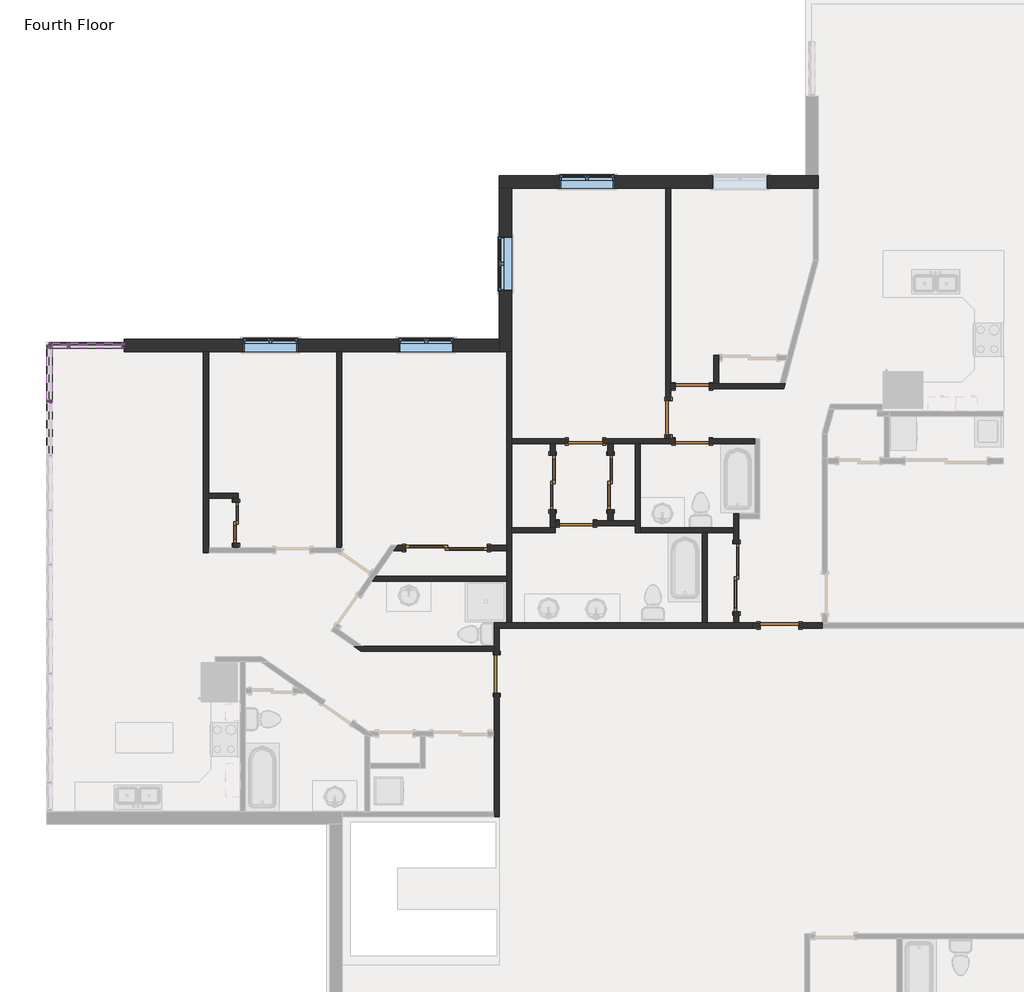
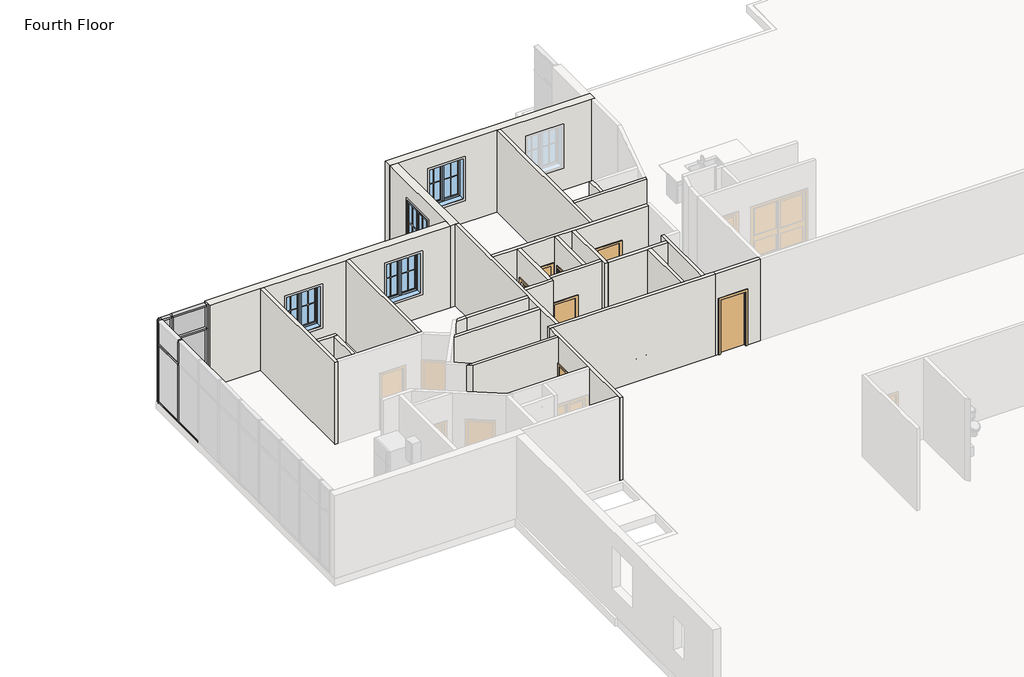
# One storey, part 8 of 17: 27 walls, 19 members, 12 doors, 4 plates, 4 windows.
"""IFC4 building model written with IfcOpenShell, lengths in millimetres."""

from ifc_helpers import new_model, si_unit, frame, origin, place, context, project, spatial, polyline, outline, extrude, faceted_brep, transform, mapped, element, save
from components import door_d8f5dbb5, door_f2b275c1, door_825b8444, door_c29894e6, door_88c23cd7, door_900f836f, door_2e7ec8be, door_caaf2a11, rectangular_mullion_rectangular_mullion_1_fa3625a1, rectangular_mullion_rectangular_mullion_1_7cbf0b94, rectangular_mullion_rectangular_mullion_1_6186cc23, rectangular_mullion_rectangular_mullion_1_049a2e78, rectangular_mullion_rectangular_mullion_1_a50b3cda, rectangular_mullion_rectangular_mullion_1_5cd4c5ac, rectangular_mullion_rectangular_mullion_1_64aff199, rectangular_mullion_rectangular_mullion_1_b6c962ab, system_panel_glazed_0ed27d1d, system_panel_glazed_134bacdb, system_panel_glazed_a3383988, system_panel_glazed_d9a092fd, window_33528cc2

model = new_model("IFC4")

# Units and contexts
model_context = context("Model", 3, world=origin())
ifc_project = project(units=[si_unit("LENGTHUNIT", "METRE", prefix="MILLI")], contexts=[model_context])

# Site, building, storey
site = spatial("IfcSite", under=ifc_project)
building = spatial("IfcBuilding", under=site)
storey = spatial("IfcBuildingStorey", under=building, Name="Fourth Floor", Elevation=9144.0)

# Doors
placement = place(None, origin())
door_shape = door_d8f5dbb5(model_context)
element("IfcDoor", 1, ObjectType="Single-Flush : 30\" x 80\"", at=placement, inside=storey, context=model_context, shape_type="MappedRepresentation", body=[
    mapped(door_shape, transform((12409.9063982, 4588.2091714, 9144.0), x_axis=(-1.0, 0.0, 0.0), y_axis=(0.0, -1.0, 0.0), z_axis=(0.0, 0.0, 1.0))),
])
door_2_shape = door_f2b275c1(model_context)
element("IfcDoor", 2, ObjectType="Single-Flush : 30\" x 80\"", at=placement, inside=storey, context=model_context, shape_type="MappedRepresentation", body=[
    mapped(door_2_shape, transform((15004.9379006, 7654.5108545, 9144.0), x_axis=(-1.0, 0.0, 0.0), y_axis=(0.0, -1.0, 0.0), z_axis=(0.0, 0.0, 1.0))),
])
element("IfcDoor", 3, ObjectType="Single-Flush : 30\" x 80\"", at=placement, inside=storey, context=model_context, shape_type="MappedRepresentation", body=[
    mapped(door_2_shape, transform((14468.0674417, 6956.8936958, 9144.0), x_axis=(0.0, -1.0, 0.0), y_axis=(1.0, 0.0, 0.0), z_axis=(0.0, 0.0, 1.0))),
])
element("IfcDoor", 4, ObjectType="Single-Flush : 30\" x 80\"", at=placement, inside=storey, context=model_context, shape_type="MappedRepresentation", body=[
    mapped(door_2_shape, transform((12612.1535557, 6423.4936958, 9144.0), x_axis=(1.0, 0.0, 0.0), y_axis=(0.0, 1.0, 0.0), z_axis=(0.0, 0.0, 1.0))),
])
element("IfcDoor", 5, ObjectType="Single-Flush : 30\" x 80\"", at=placement, inside=storey, context=model_context, shape_type="MappedRepresentation", body=[
    mapped(door_2_shape, transform((15001.4674417, 6423.4936958, 9144.0), x_axis=(1.0, 0.0, 0.0), y_axis=(0.0, 1.0, 0.0), z_axis=(0.0, 0.0, 1.0))),
])
door_3_shape = door_825b8444(model_context)
element("IfcDoor", 6, ObjectType="Single-Flush : 34\" x 80\"", at=placement, inside=storey, context=model_context, shape_type="MappedRepresentation", body=[
    mapped(door_3_shape, transform((16954.6993195, 2302.2091714, 9144.0), x_axis=(-1.0, 0.0, 0.0), y_axis=(0.0, -1.0, 0.0), z_axis=(0.0, 0.0, 1.0))),
])
door_4_shape = door_c29894e6(model_context)
element("IfcDoor", 7, ObjectType="Single-Flush : 34\" x 80\"", at=placement, inside=storey, context=model_context, shape_type="MappedRepresentation", body=[
    mapped(door_4_shape, transform((10626.433999, 1220.4185137, 9144.0), x_axis=(0.0, 1.0, 0.0), y_axis=(-1.0, 0.0, 0.0), z_axis=(0.0, 0.0, 1.0))),
])
door_5_shape = door_88c23cd7(model_context)
element("IfcDoor", 8, ObjectType="Sliding-Closet : 36\" x 80\"", at=placement, inside=storey, context=model_context, shape_type="MappedRepresentation", body=[
    mapped(door_5_shape, transform((4658.4503923, 4599.0838873, 9144.0), x_axis=(0.0, -1.0, 0.0), y_axis=(1.0, 0.0, 0.0), z_axis=(0.0, 0.0, 1.0))),
])
door_6_shape = door_900f836f(model_context)
element("IfcDoor", 9, ObjectType="Sliding-Closet : 48\" x 80\"", at=placement, inside=storey, context=model_context, shape_type="MappedRepresentation", body=[
    mapped(door_6_shape, transform((11749.5063982, 5505.8514336, 9144.0), x_axis=(0.0, -1.0, 0.0), y_axis=(1.0, 0.0, 0.0), z_axis=(0.0, 0.0, 1.0))),
])
element("IfcDoor", 10, ObjectType="Sliding-Closet : 48\" x 80\"", at=placement, inside=storey, context=model_context, shape_type="MappedRepresentation", body=[
    mapped(door_6_shape, transform((13297.9535557, 5505.8514336, 9144.0), x_axis=(0.0, 1.0, 0.0), y_axis=(-1.0, 0.0, 0.0), z_axis=(0.0, 0.0, 1.0))),
])
door_7_shape = door_2e7ec8be(model_context)
element("IfcDoor", 11, ObjectType="Sliding-Closet : 60\" x 80\"", at=placement, inside=storey, context=model_context, shape_type="MappedRepresentation", body=[
    mapped(door_7_shape, transform((15862.4993195, 3369.0091714, 9144.0), x_axis=(0.0, -1.0, 0.0), y_axis=(1.0, 0.0, 0.0), z_axis=(0.0, 0.0, 1.0))),
])
door_8_shape = door_caaf2a11(model_context)
element("IfcDoor", 12, ObjectType="Sliding-Closet : 72\" x 80\"", at=placement, inside=storey, context=model_context, shape_type="MappedRepresentation", body=[
    mapped(door_8_shape, transform((9498.6267396, 3910.2829071, 9144.0), x_axis=(1.0, 0.0, 0.0), y_axis=(0.0, 1.0, 0.0), z_axis=(0.0, 0.0, 1.0))),
])

# Members
rectangular_mullion_rectangular_mullion_1_shape = rectangular_mullion_rectangular_mullion_1_fa3625a1(model_context)
element("IfcMember", 13, ObjectType="Rectangular Mullion : Rectangular Mullion 1", at=placement, inside=storey, context=model_context, shape_type="MappedRepresentation", body=[
    mapped(rectangular_mullion_rectangular_mullion_1_shape, transform((1069.5831156, 8571.3427849, 12192.0), x_axis=(0.0, 0.0, 1.0), y_axis=(0.0, 1.0, 0.0), z_axis=(-1.0, 0.0, 0.0))),
])
element("IfcMember", 14, ObjectType="Rectangular Mullion : Rectangular Mullion 1", at=placement, inside=storey, context=model_context, shape_type="MappedRepresentation", body=[
    mapped(rectangular_mullion_rectangular_mullion_1_shape, transform((2225.2831159, 8571.3427849, 9144.0), x_axis=(0.0, 0.0, -1.0), y_axis=(0.0, 1.0, 0.0), z_axis=(1.0, 0.0, 0.0))),
])
element("IfcMember", 15, ObjectType="Rectangular Mullion : Rectangular Mullion 1", at=placement, inside=storey, context=model_context, shape_type="MappedRepresentation", body=[
    mapped(rectangular_mullion_rectangular_mullion_1_shape, transform((612.3831159, 8507.8427849, 9144.0), x_axis=(0.0, 0.0, -1.0), y_axis=(-1.0, 0.0, 0.0), z_axis=(0.0, 1.0, 0.0))),
])
element("IfcMember", 16, ObjectType="Rectangular Mullion : Rectangular Mullion 1", at=placement, inside=storey, context=model_context, shape_type="MappedRepresentation", body=[
    mapped(rectangular_mullion_rectangular_mullion_1_shape, transform((612.3831159, 7288.6427846, 9144.0), x_axis=(0.0, 0.0, -1.0), y_axis=(-1.0, 0.0, 0.0), z_axis=(0.0, 1.0, 0.0))),
])
rectangular_mullion_rectangular_mullion_1_2_shape = rectangular_mullion_rectangular_mullion_1_7cbf0b94(model_context)
element("IfcMember", 17, ObjectType="Rectangular Mullion : Rectangular Mullion 1", at=placement, inside=storey, context=model_context, shape_type="MappedRepresentation", body=[
    mapped(rectangular_mullion_rectangular_mullion_1_2_shape, transform((1069.5831156, 8571.3427849, 11309.35), x_axis=(0.0, 0.0, 1.0), y_axis=(0.0, 1.0, 0.0), z_axis=(-1.0, 0.0, 0.0))),
])
element("IfcMember", 18, ObjectType="Rectangular Mullion : Rectangular Mullion 1", at=placement, inside=storey, context=model_context, shape_type="MappedRepresentation", body=[
    mapped(rectangular_mullion_rectangular_mullion_1_2_shape, transform((612.3831159, 7352.1427846, 11309.35), x_axis=(0.0, 0.0, 1.0), y_axis=(-1.0, 0.0, 0.0), z_axis=(0.0, -1.0, 0.0))),
])
rectangular_mullion_rectangular_mullion_1_3_shape = rectangular_mullion_rectangular_mullion_1_6186cc23(model_context)
element("IfcMember", 19, ObjectType="Rectangular Mullion : Rectangular Mullion 1", at=placement, inside=storey, context=model_context, shape_type="MappedRepresentation", body=[
    mapped(rectangular_mullion_rectangular_mullion_1_3_shape, transform((1037.8331156, 8571.3427849, 9144.0), x_axis=(-1.0, 0.0, 0.0), y_axis=(0.0, 1.0, 0.0), z_axis=(0.0, 0.0, -1.0))),
])
element("IfcMember", 20, ObjectType="Rectangular Mullion : Rectangular Mullion 1", at=placement, inside=storey, context=model_context, shape_type="MappedRepresentation", body=[
    mapped(rectangular_mullion_rectangular_mullion_1_3_shape, transform((612.3831159, 7320.3927846, 9144.0), x_axis=(0.0, -1.0, 0.0), y_axis=(-1.0, 0.0, 0.0), z_axis=(0.0, 0.0, -1.0))),
])
rectangular_mullion_rectangular_mullion_1_4_shape = rectangular_mullion_rectangular_mullion_1_049a2e78(model_context)
element("IfcMember", 21, ObjectType="Rectangular Mullion : Rectangular Mullion 1", at=placement, inside=storey, context=model_context, shape_type="MappedRepresentation", body=[
    mapped(rectangular_mullion_rectangular_mullion_1_4_shape, transform((1037.8331156, 8571.3427849, 11309.35), x_axis=(-1.0, 0.0, 0.0), y_axis=(0.0, 1.0, 0.0), z_axis=(0.0, 0.0, -1.0))),
])
element("IfcMember", 22, ObjectType="Rectangular Mullion : Rectangular Mullion 1", at=placement, inside=storey, context=model_context, shape_type="MappedRepresentation", body=[
    mapped(rectangular_mullion_rectangular_mullion_1_4_shape, transform((612.3831159, 7320.3927846, 11309.35), x_axis=(0.0, -1.0, 0.0), y_axis=(-1.0, 0.0, 0.0), z_axis=(0.0, 0.0, -1.0))),
])
rectangular_mullion_rectangular_mullion_1_5_shape = rectangular_mullion_rectangular_mullion_1_a50b3cda(model_context)
element("IfcMember", 23, ObjectType="Rectangular Mullion : Rectangular Mullion 1", at=placement, inside=storey, context=model_context, shape_type="MappedRepresentation", body=[
    mapped(rectangular_mullion_rectangular_mullion_1_5_shape, transform((612.3831159, 8571.3427849, 9144.0), x_axis=(-1.0, 0.0, 0.0), y_axis=(0.0, 1.0, 0.0), z_axis=(0.0, 0.0, -1.0))),
])
rectangular_mullion_rectangular_mullion_1_6_shape = rectangular_mullion_rectangular_mullion_1_5cd4c5ac(model_context)
element("IfcMember", 24, ObjectType="Rectangular Mullion : Rectangular Mullion 1", at=placement, inside=storey, context=model_context, shape_type="MappedRepresentation", body=[
    mapped(rectangular_mullion_rectangular_mullion_1_6_shape, transform((612.3831159, 8571.3427849, 11309.35), x_axis=(-1.0, 0.0, 0.0), y_axis=(0.0, 1.0, 0.0), z_axis=(0.0, 0.0, -1.0))),
])
element("IfcMember", 25, ObjectType="Rectangular Mullion : Rectangular Mullion 1", at=placement, inside=storey, context=model_context, shape_type="MappedRepresentation", body=[
    mapped(rectangular_mullion_rectangular_mullion_1_6_shape, transform((2288.7831159, 8571.3427849, 12192.0), x_axis=(1.0, 0.0, 0.0), y_axis=(0.0, 1.0, 0.0), z_axis=(0.0, 0.0, 1.0))),
])
element("IfcMember", 26, ObjectType="Rectangular Mullion : Rectangular Mullion 1", at=placement, inside=storey, context=model_context, shape_type="MappedRepresentation", body=[
    mapped(rectangular_mullion_rectangular_mullion_1_6_shape, transform((612.3831159, 8571.3427849, 12192.0), x_axis=(0.0, 1.0, 0.0), y_axis=(-1.0, 0.0, 0.0), z_axis=(0.0, 0.0, 1.0))),
])
element("IfcMember", 27, ObjectType="Rectangular Mullion : Rectangular Mullion 1", at=placement, inside=storey, context=model_context, shape_type="MappedRepresentation", body=[
    mapped(rectangular_mullion_rectangular_mullion_1_5_shape, transform((2288.7831159, 8571.3427849, 11309.35), x_axis=(1.0, 0.0, 0.0), y_axis=(0.0, 1.0, 0.0), z_axis=(0.0, 0.0, 1.0))),
])
element("IfcMember", 28, ObjectType="Rectangular Mullion : Rectangular Mullion 1", at=placement, inside=storey, context=model_context, shape_type="MappedRepresentation", body=[
    mapped(rectangular_mullion_rectangular_mullion_1_5_shape, transform((612.3831159, 8571.3427849, 11309.35), x_axis=(0.0, 1.0, 0.0), y_axis=(-1.0, 0.0, 0.0), z_axis=(0.0, 0.0, 1.0))),
])
rectangular_mullion_rectangular_mullion_1_7_shape = rectangular_mullion_rectangular_mullion_1_64aff199(model_context)
element("IfcMember", 29, ObjectType="Rectangular Mullion : Rectangular Mullion 1", at=placement, inside=storey, context=model_context, shape_type="MappedRepresentation", body=[
    mapped(rectangular_mullion_rectangular_mullion_1_7_shape, transform((675.8831159, 8571.3427849, 12192.0), x_axis=(0.0, 0.0, 1.0), y_axis=(0.0, 1.0, 0.0), z_axis=(-1.0, 0.0, 0.0))),
])
element("IfcMember", 30, ObjectType="Rectangular Mullion : Rectangular Mullion 1", at=placement, inside=storey, context=model_context, shape_type="MappedRepresentation", body=[
    mapped(rectangular_mullion_rectangular_mullion_1_7_shape, transform((1006.0831156, 8571.3427849, 9144.0), x_axis=(0.0, 0.0, -1.0), y_axis=(0.0, 1.0, 0.0), z_axis=(1.0, 0.0, 0.0))),
])
rectangular_mullion_rectangular_mullion_1_8_shape = rectangular_mullion_rectangular_mullion_1_b6c962ab(model_context)
element("IfcMember", 31, ObjectType="Rectangular Mullion : Rectangular Mullion 1", at=placement, inside=storey, context=model_context, shape_type="MappedRepresentation", body=[
    mapped(rectangular_mullion_rectangular_mullion_1_8_shape, transform((675.8831159, 8571.3427849, 11309.35), x_axis=(0.0, 0.0, 1.0), y_axis=(0.0, 1.0, 0.0), z_axis=(-1.0, 0.0, 0.0))),
])

# Plates
system_panel_glazed_shape = system_panel_glazed_0ed27d1d(model_context)
element("IfcPlate", 32, ObjectType="System Panel : Glazed", at=placement, inside=storey, context=model_context, shape_type="MappedRepresentation", body=[
    mapped(system_panel_glazed_shape, transform((1647.4331158, 8571.3427849, 9207.5), x_axis=(-1.0, 0.0, 0.0), y_axis=(0.0, -1.0, 0.0), z_axis=(0.0, 0.0, 1.0))),
])
system_panel_glazed_2_shape = system_panel_glazed_134bacdb(model_context)
element("IfcPlate", 33, ObjectType="System Panel : Glazed", at=placement, inside=storey, context=model_context, shape_type="MappedRepresentation", body=[
    mapped(system_panel_glazed_2_shape, transform((1647.4331158, 8571.3427849, 11341.1), x_axis=(-1.0, 0.0, 0.0), y_axis=(0.0, -1.0, 0.0), z_axis=(0.0, 0.0, 1.0))),
])
system_panel_glazed_3_shape = system_panel_glazed_a3383988(model_context)
element("IfcPlate", 34, ObjectType="System Panel : Glazed", at=placement, inside=storey, context=model_context, shape_type="MappedRepresentation", body=[
    mapped(system_panel_glazed_3_shape, transform((840.9831158, 8571.3427849, 9207.5), x_axis=(-1.0, 0.0, 0.0), y_axis=(0.0, -1.0, 0.0), z_axis=(0.0, 0.0, 1.0))),
])
system_panel_glazed_4_shape = system_panel_glazed_d9a092fd(model_context)
element("IfcPlate", 35, ObjectType="System Panel : Glazed", at=placement, inside=storey, context=model_context, shape_type="MappedRepresentation", body=[
    mapped(system_panel_glazed_4_shape, transform((840.9831158, 8571.3427849, 11341.1), x_axis=(-1.0, 0.0, 0.0), y_axis=(0.0, -1.0, 0.0), z_axis=(0.0, 0.0, 1.0))),
])

# Walls
element("IfcWall", 36, ObjectType="Exterior - Brick on Wood Stud", at=placement, inside=storey, context=model_context, shape_type="Brep", body=[
    faceted_brep([(17820.1121608, 12370.2302849, 9144.0), (17537.5371608, 12370.2302849, 9144.0), (10681.8956159, 12370.2302849, 9144.0), (10681.8956159, 12370.2302849, 12192.0), (17537.5371608, 12370.2302849, 12192.0), (17820.1121608, 12370.2302849, 12192.0), (13255.2252788, 12370.2302849, 11582.4), (12036.0252788, 12370.2302849, 11582.4), (12036.0252788, 12370.2302849, 10058.4), (13255.2252788, 12370.2302849, 10058.4), (16683.0460512, 12370.2302849, 11582.4), (15463.8460512, 12370.2302849, 11582.4), (15463.8460512, 12370.2302849, 10058.4), (16683.0460512, 12370.2302849, 10058.4), (17820.1121608, 12087.6552849, 9144.0), (17820.1121608, 12087.6552849, 12192.0), (17705.8121608, 12087.6552849, 12192.0), (14525.2174417, 12087.6552849, 12192.0), (14410.9174417, 12087.6552849, 12192.0), (10964.4706159, 12087.6552849, 12192.0), (10681.8956159, 12087.6552849, 12192.0), (10681.8956159, 12087.6552849, 9144.0), (10964.4706159, 12087.6552849, 9144.0), (14410.9174417, 12087.6552849, 9144.0), (14525.2174417, 12087.6552849, 9144.0), (17705.8121608, 12087.6552849, 9144.0), (13255.2252788, 12087.6552849, 11582.4), (13255.2252788, 12087.6552849, 10058.4), (12036.0252788, 12087.6552849, 10058.4), (12036.0252788, 12087.6552849, 11582.4), (16683.0460512, 12087.6552849, 11582.4), (16683.0460512, 12087.6552849, 10058.4), (15463.8460512, 12087.6552849, 10058.4), (15463.8460512, 12087.6552849, 11582.4)], [[[0, 1, 2, 3, 4, 5], [6, 7, 8, 9], [10, 11, 12, 13]], [[14, 15, 16, 17, 18, 19, 20, 21, 22, 23, 24, 25], [26, 27, 28, 29], [30, 31, 32, 33]], [[2, 1, 0, 14, 25, 24, 23, 22, 21]], [[5, 4, 3, 20, 19, 18, 17, 16, 15]], [[27, 26, 6, 9]], [[28, 27, 9, 8]], [[29, 28, 8, 7]], [[26, 29, 7, 6]], [[31, 30, 10, 13]], [[32, 31, 13, 12]], [[33, 32, 12, 11]], [[30, 33, 11, 10]], [[0, 5, 15, 14]], [[3, 2, 21, 20]]]),
])
element("IfcWall", 37, ObjectType="Exterior - Brick on Wood Stud", at=placement, inside=storey, context=model_context, shape_type="Brep", body=[
    faceted_brep([(10681.8956159, 12087.6552849, 9144.0), (10681.8956159, 8712.6302849, 9144.0), (10681.8956159, 8430.0552849, 9144.0), (10681.8956159, 8430.0552849, 12192.0), (10681.8956159, 8712.6302849, 12192.0), (10681.8956159, 12087.6552849, 12192.0), (10681.8956159, 11009.7427849, 11582.4), (10681.8956159, 9790.5427849, 11582.4), (10681.8956159, 9790.5427849, 10058.4), (10681.8956159, 11009.7427849, 10058.4), (10964.4706159, 12087.6552849, 9144.0), (10964.4706159, 12087.6552849, 12192.0), (10964.4706159, 8430.0552849, 12192.0), (10964.4706159, 8430.0552849, 9144.0), (10964.4706159, 11009.7427849, 11582.4), (10964.4706159, 11009.7427849, 10058.4), (10964.4706159, 9790.5427849, 10058.4), (10964.4706159, 9790.5427849, 11582.4), (10850.1706159, 8430.0552849, 9144.0), (10850.1706159, 8430.0552849, 12192.0)], [[[0, 1, 2, 3, 4, 5], [6, 7, 8, 9]], [[10, 11, 12, 13], [14, 15, 16, 17]], [[2, 1, 0, 10, 13, 18]], [[5, 4, 3, 19, 12, 11]], [[15, 14, 6, 9]], [[16, 15, 9, 8]], [[17, 16, 8, 7]], [[14, 17, 7, 6]], [[3, 2, 18, 13, 12, 19]], [[0, 5, 11, 10]]]),
])
element("IfcWall", 38, ObjectType="Exterior - Brick on Wood Stud", at=placement, inside=storey, context=model_context, shape_type="Brep", body=[
    faceted_brep([(10681.8956159, 8712.6302849, 9144.0), (2288.7831159, 8712.6302849, 9144.0), (2288.7831159, 8712.6302849, 12192.0), (10681.8956159, 8712.6302849, 12192.0), (6168.7897364, 8712.6302849, 11582.4), (4949.5897364, 8712.6302849, 11582.4), (4949.5897364, 8712.6302849, 10058.4), (6168.7897364, 8712.6302849, 10058.4), (9654.7831159, 8712.6302849, 11582.4), (8435.5831159, 8712.6302849, 11582.4), (8435.5831159, 8712.6302849, 10058.4), (9654.7831159, 8712.6302849, 10058.4), (10681.8956159, 8430.0552849, 9144.0), (10681.8956159, 8430.0552849, 12192.0), (7160.5967971, 8430.0552849, 12192.0), (7046.2967971, 8430.0552849, 12192.0), (4173.6826756, 8430.0552849, 12192.0), (4059.3826756, 8430.0552849, 12192.0), (2288.7831159, 8430.0552849, 12192.0), (2288.7831159, 8430.0552849, 9144.0), (4059.3826756, 8430.0552849, 9144.0), (4173.6826756, 8430.0552849, 9144.0), (7046.2967971, 8430.0552849, 9144.0), (7160.5967971, 8430.0552849, 9144.0), (6168.7897364, 8430.0552849, 11582.4), (6168.7897364, 8430.0552849, 10058.4), (4949.5897364, 8430.0552849, 10058.4), (4949.5897364, 8430.0552849, 11582.4), (9654.7831159, 8430.0552849, 11582.4), (9654.7831159, 8430.0552849, 10058.4), (8435.5831159, 8430.0552849, 10058.4), (8435.5831159, 8430.0552849, 11582.4)], [[[0, 1, 2, 3], [4, 5, 6, 7], [8, 9, 10, 11]], [[12, 13, 14, 15, 16, 17, 18, 19, 20, 21, 22, 23], [24, 25, 26, 27], [28, 29, 30, 31]], [[1, 0, 12, 23, 22, 21, 20, 19]], [[2, 1, 19, 18]], [[3, 2, 18, 17, 16, 15, 14, 13]], [[25, 24, 4, 7]], [[26, 25, 7, 6]], [[27, 26, 6, 5]], [[24, 27, 5, 4]], [[29, 28, 8, 11]], [[30, 29, 11, 10]], [[31, 30, 10, 9]], [[28, 31, 9, 8]], [[0, 3, 13, 12]]]),
])
element("IfcWall", 39, ObjectType="Interior - 4 1/2\" Partition", at=placement, inside=storey, context=model_context, shape_type="Brep", body=[
    faceted_brep([(10964.4706159, 2359.3591714, 9144.0), (10964.4706159, 4378.6591714, 9144.0), (10964.4706159, 4492.9591714, 9144.0), (10964.4706159, 6366.3436958, 9144.0), (10964.4706159, 6480.6436958, 9144.0), (10964.4706159, 8430.0552849, 9144.0), (10964.4706159, 8430.0552849, 12192.0), (10964.4706159, 6480.6436958, 12192.0), (10964.4706159, 6366.3436958, 12192.0), (10964.4706159, 4492.9591714, 12192.0), (10964.4706159, 4378.6591714, 12192.0), (10964.4706159, 2359.3591714, 12192.0), (10850.1706159, 2359.3591714, 9144.0), (10850.1706159, 2359.3591714, 12192.0), (10850.1706159, 3289.4624849, 12192.0), (10850.1706159, 3403.7624849, 12192.0), (10850.1706159, 3980.1329071, 12192.0), (10850.1706159, 4094.4329071, 12192.0), (10850.1706159, 8430.0552849, 12192.0), (10850.1706159, 8430.0552849, 9144.0), (10850.1706159, 4094.4329071, 9144.0), (10850.1706159, 3980.1329071, 9144.0), (10850.1706159, 3403.7624849, 9144.0), (10850.1706159, 3289.4624849, 9144.0)], [[[0, 1, 2, 3, 4, 5, 6, 7, 8, 9, 10, 11]], [[12, 13, 14, 15, 16, 17, 18, 19, 20, 21, 22, 23]], [[5, 4, 3, 2, 1, 0, 12, 23, 22, 21, 20, 19]], [[11, 10, 9, 8, 7, 6, 18, 17, 16, 15, 14, 13]], [[0, 11, 13, 12]], [[6, 5, 19, 18]]]),
])
element("IfcWall", 40, ObjectType="Interior - 4 1/2\" Partition", at=placement, inside=storey, context=model_context, shape_type="Brep", body=[
    faceted_brep([(10569.283999, 2245.0591714, 9144.0), (10569.283999, 1836.3685137, 9144.0), (10569.283999, 1722.0685137, 9144.0), (10569.283999, 1652.2185137, 9144.0), (10569.283999, 1652.2185137, 11176.0), (10569.283999, 788.6185137, 11176.0), (10569.283999, 788.6185137, 9144.0), (10569.283999, -58.9797775, 9144.0), (10569.283999, -173.2797775, 9144.0), (10569.283999, -1864.031369, 9144.0), (10569.283999, -1978.331369, 9144.0), (10569.283999, -1978.331369, 12192.0), (10569.283999, -1864.031369, 12192.0), (10569.283999, -173.2797775, 12192.0), (10569.283999, -58.9797775, 12192.0), (10569.283999, 1722.0685137, 12192.0), (10569.283999, 1836.3685137, 12192.0), (10569.283999, 2245.0591714, 12192.0), (10683.583999, 1652.2185137, 11176.0), (10683.583999, 1652.2185137, 9144.0), (10683.583999, 2245.0591714, 9144.0), (10683.583999, 2245.0591714, 12192.0), (10683.583999, -1978.331369, 12192.0), (10683.583999, -1978.331369, 9144.0), (10683.583999, 788.6185137, 9144.0), (10683.583999, 788.6185137, 11176.0)], [[[0, 1, 2, 3, 4, 5, 6, 7, 8, 9, 10, 11, 12, 13, 14, 15, 16, 17]], [[18, 19, 20, 21, 22, 23, 24, 25]], [[24, 23, 10, 9, 8, 7, 6]], [[20, 19, 3, 2, 1, 0]], [[17, 16, 15, 14, 13, 12, 11, 22, 21]], [[4, 3, 19, 18]], [[5, 4, 18, 25]], [[6, 5, 25, 24]], [[11, 10, 23, 22]], [[0, 17, 21, 20]]]),
])
element("IfcWall", 41, ObjectType="Interior - 4 1/2\" Partition", at=placement, inside=storey, context=model_context, shape_type="SweptSolid", body=[
    extrude(outline(polyline([(9144.0, 16345.0993195), (9144.0, 16522.8993195), (11176.0, 16522.8993195), (11176.0, 17386.4993195), (9144.0, 17386.4993195), (9144.0, 17913.5493195), (12192.0, 17913.5493195), (12192.0, 16345.0993195), (9144.0, 16345.0993195)])), frame((0.0, 2245.0591714, 0.0), z_axis=(0.0, 1.0, 0.0), x_axis=(0.0, 0.0, 1.0)), (0.0, 0.0, 1.0), 114.3),
])
element("IfcWall", 42, ObjectType="Interior - 4 1/2\" Partition", at=placement, inside=storey, context=model_context, shape_type="Brep", body=[
    faceted_brep([(16345.0993195, 2359.3591714, 9144.0), (16046.6493195, 2359.3591714, 9144.0), (15932.3493195, 2359.3591714, 9144.0), (15335.4493195, 2359.3591714, 9144.0), (15221.1493195, 2359.3591714, 9144.0), (10964.4706159, 2359.3591714, 9144.0), (10850.1706159, 2359.3591714, 9144.0), (10569.283999, 2359.3591714, 9144.0), (10569.283999, 2359.3591714, 12192.0), (10850.1706159, 2359.3591714, 12192.0), (10964.4706159, 2359.3591714, 12192.0), (15221.1493195, 2359.3591714, 12192.0), (15335.4493195, 2359.3591714, 12192.0), (15932.3493195, 2359.3591714, 12192.0), (16046.6493195, 2359.3591714, 12192.0), (16345.0993195, 2359.3591714, 12192.0), (16345.0993195, 2245.0591714, 9144.0), (16345.0993195, 2245.0591714, 12192.0), (10683.583999, 2245.0591714, 12192.0), (10569.283999, 2245.0591714, 12192.0), (10569.283999, 2245.0591714, 9144.0), (10683.583999, 2245.0591714, 9144.0)], [[[0, 1, 2, 3, 4, 5, 6, 7, 8, 9, 10, 11, 12, 13, 14, 15]], [[16, 17, 18, 19, 20, 21]], [[7, 6, 5, 4, 3, 2, 1, 0, 16, 21, 20]], [[15, 14, 13, 12, 11, 10, 9, 8, 19, 18, 17]], [[0, 15, 17, 16]], [[8, 7, 20, 19]]]),
])
element("IfcWall", 43, ObjectType="Interior - 4 1/2\" Partition", at=placement, inside=storey, context=model_context, shape_type="SweptSolid", body=[
    extrude(outline(polyline([(15335.4493195, 4378.6591714), (15335.4493195, 2359.3591714), (15221.1493195, 2359.3591714), (15221.1493195, 4378.6591714), (15335.4493195, 4378.6591714)])), frame((0.0, 0.0, 9144.0), z_axis=(0.0, 0.0, 1.0), x_axis=(1.0, 0.0, 0.0)), (0.0, 0.0, 1.0), 3048.0),
])
element("IfcWall", 44, ObjectType="Interior - 4 1/2\" Partition", at=placement, inside=storey, context=model_context, shape_type="Brep", body=[
    faceted_brep([(13837.7035557, 4378.6591714, 9144.0), (15221.1493195, 4378.6591714, 9144.0), (15335.4493195, 4378.6591714, 9144.0), (15932.3493195, 4378.6591714, 9144.0), (15932.3493195, 4378.6591714, 12192.0), (15335.4493195, 4378.6591714, 12192.0), (15221.1493195, 4378.6591714, 12192.0), (13837.7035557, 4378.6591714, 12192.0), (13837.7035557, 4492.9591714, 9144.0), (13837.7035557, 4492.9591714, 12192.0), (15932.3493195, 4492.9591714, 12192.0), (15932.3493195, 4492.9591714, 9144.0)], [[[0, 1, 2, 3, 4, 5, 6, 7]], [[8, 9, 10, 11]], [[3, 2, 1, 0, 8, 11]], [[7, 6, 5, 4, 10, 9]], [[0, 7, 9, 8]], [[4, 3, 11, 10]]]),
])
element("IfcWall", 45, ObjectType="Interior - 4 1/2\" Partition", at=placement, inside=storey, context=model_context, shape_type="Brep", body=[
    faceted_brep([(15932.3493195, 2607.0091714, 11176.0), (15932.3493195, 2607.0091714, 9144.0), (15932.3493195, 2359.3591714, 9144.0), (15932.3493195, 2359.3591714, 12192.0), (15932.3493195, 4378.6591714, 12192.0), (15932.3493195, 4492.9591714, 12192.0), (15932.3493195, 4807.4366582, 12192.0), (15932.3493195, 4807.4366582, 9144.0), (15932.3493195, 4492.9591714, 9144.0), (15932.3493195, 4378.6591714, 9144.0), (15932.3493195, 4131.0091714, 9144.0), (15932.3493195, 4131.0091714, 11176.0), (16046.6493195, 2359.3591714, 9144.0), (16046.6493195, 2607.0091714, 9144.0), (16046.6493195, 2607.0091714, 11176.0), (16046.6493195, 4131.0091714, 11176.0), (16046.6493195, 4131.0091714, 9144.0), (16046.6493195, 4693.1366582, 9144.0), (16046.6493195, 4807.4366582, 9144.0), (16046.6493195, 4807.4366582, 12192.0), (16046.6493195, 4693.1366582, 12192.0), (16046.6493195, 2359.3591714, 12192.0)], [[[0, 1, 2, 3, 4, 5, 6, 7, 8, 9, 10, 11]], [[12, 13, 14, 15, 16, 17, 18, 19, 20, 21]], [[2, 1, 13, 12]], [[10, 9, 8, 7, 18, 17, 16]], [[6, 5, 4, 3, 21, 20, 19]], [[16, 15, 11, 10]], [[14, 13, 1, 0]], [[15, 14, 0, 11]], [[7, 6, 19, 18]], [[3, 2, 12, 21]]]),
])
element("IfcWall", 46, ObjectType="Interior - 4 1/2\" Partition", at=placement, inside=storey, context=model_context, shape_type="Brep", body=[
    faceted_brep([(16399.0583594, 6480.6436958, 9144.0), (15382.4674417, 6480.6436958, 9144.0), (15382.4674417, 6480.6436958, 11176.0), (14620.4674417, 6480.6436958, 11176.0), (14620.4674417, 6480.6436958, 9144.0), (14525.2174417, 6480.6436958, 9144.0), (14410.9174417, 6480.6436958, 9144.0), (12993.1535557, 6480.6436958, 9144.0), (12993.1535557, 6480.6436958, 11176.0), (12231.1535557, 6480.6436958, 11176.0), (12231.1535557, 6480.6436958, 9144.0), (10964.4706159, 6480.6436958, 9144.0), (10964.4706159, 6480.6436958, 12192.0), (14410.9174417, 6480.6436958, 12192.0), (14525.2174417, 6480.6436958, 12192.0), (16399.0583594, 6480.6436958, 12192.0), (15382.4674417, 6366.3436958, 11176.0), (15382.4674417, 6366.3436958, 9144.0), (16399.0583594, 6366.3436958, 9144.0), (16399.0583594, 6366.3436958, 12192.0), (13837.7035557, 6366.3436958, 12192.0), (13723.4035557, 6366.3436958, 12192.0), (13228.1035557, 6366.3436958, 12192.0), (13113.8035557, 6366.3436958, 12192.0), (11933.6563982, 6366.3436958, 12192.0), (11819.3563982, 6366.3436958, 12192.0), (10964.4706159, 6366.3436958, 12192.0), (10964.4706159, 6366.3436958, 9144.0), (11819.3563982, 6366.3436958, 9144.0), (11933.6563982, 6366.3436958, 9144.0), (12231.1535557, 6366.3436958, 9144.0), (12231.1535557, 6366.3436958, 11176.0), (12993.1535557, 6366.3436958, 11176.0), (12993.1535557, 6366.3436958, 9144.0), (13113.8035557, 6366.3436958, 9144.0), (13228.1035557, 6366.3436958, 9144.0), (13723.4035557, 6366.3436958, 9144.0), (13837.7035557, 6366.3436958, 9144.0), (14620.4674417, 6366.3436958, 9144.0), (14620.4674417, 6366.3436958, 11176.0)], [[[0, 1, 2, 3, 4, 5, 6, 7, 8, 9, 10, 11, 12, 13, 14, 15]], [[16, 17, 18, 19, 20, 21, 22, 23, 24, 25, 26, 27, 28, 29, 30, 31, 32, 33, 34, 35, 36, 37, 38, 39]], [[30, 29, 28, 27, 11, 10]], [[18, 17, 1, 0]], [[38, 37, 36, 35, 34, 33, 7, 6, 5, 4]], [[15, 14, 13, 12, 26, 25, 24, 23, 22, 21, 20, 19]], [[8, 7, 33, 32]], [[9, 8, 32, 31]], [[10, 9, 31, 30]], [[2, 1, 17, 16]], [[3, 2, 16, 39]], [[4, 3, 39, 38]], [[0, 15, 19, 18]], [[12, 11, 27, 26]]]),
])
element("IfcWall", 47, ObjectType="Interior - 4 1/2\" Partition", at=placement, inside=storey, context=model_context, shape_type="Brep", body=[
    faceted_brep([(13723.4035557, 6366.3436958, 9144.0), (13723.4035557, 4645.3591714, 9144.0), (13723.4035557, 4531.0591714, 9144.0), (13723.4035557, 4378.6591714, 9144.0), (13723.4035557, 4378.6591714, 12192.0), (13723.4035557, 4531.0591714, 12192.0), (13723.4035557, 4645.3591714, 12192.0), (13723.4035557, 6366.3436958, 12192.0), (13837.7035557, 6366.3436958, 9144.0), (13837.7035557, 6366.3436958, 12192.0), (13837.7035557, 4492.9591714, 12192.0), (13837.7035557, 4378.6591714, 12192.0), (13837.7035557, 4378.6591714, 9144.0), (13837.7035557, 4492.9591714, 9144.0)], [[[0, 1, 2, 3, 4, 5, 6, 7]], [[8, 9, 10, 11, 12, 13]], [[3, 2, 1, 0, 8, 13, 12]], [[7, 6, 5, 4, 11, 10, 9]], [[4, 3, 12, 11]], [[0, 7, 9, 8]]]),
])
element("IfcWall", 48, ObjectType="Interior - 4 1/2\" Partition", at=placement, inside=storey, context=model_context, shape_type="Brep", body=[
    faceted_brep([(10964.4706159, 4378.6591714, 9144.0), (11933.6563982, 4378.6591714, 9144.0), (11933.6563982, 4378.6591714, 12192.0), (10964.4706159, 4378.6591714, 12192.0), (10964.4706159, 4492.9591714, 9144.0), (10964.4706159, 4492.9591714, 12192.0), (11819.3563982, 4492.9591714, 12192.0), (11933.6563982, 4492.9591714, 12192.0), (11933.6563982, 4492.9591714, 9144.0), (11819.3563982, 4492.9591714, 9144.0)], [[[0, 1, 2, 3]], [[4, 5, 6, 7, 8, 9]], [[1, 0, 4, 9, 8]], [[3, 2, 7, 6, 5]], [[2, 1, 8, 7]], [[0, 3, 5, 4]]]),
])
element("IfcWall", 49, ObjectType="Interior - 4 1/2\" Partition", at=placement, inside=storey, context=model_context, shape_type="Brep", body=[
    faceted_brep([(11933.6563982, 4492.9591714, 9144.0), (11933.6563982, 4531.0591714, 9144.0), (11933.6563982, 4645.3591714, 9144.0), (11933.6563982, 4896.2514336, 9144.0), (11933.6563982, 4896.2514336, 11176.0), (11933.6563982, 6115.4514336, 11176.0), (11933.6563982, 6115.4514336, 9144.0), (11933.6563982, 6366.3436958, 9144.0), (11933.6563982, 6366.3436958, 12192.0), (11933.6563982, 4645.3591714, 12192.0), (11933.6563982, 4531.0591714, 12192.0), (11933.6563982, 4492.9591714, 12192.0), (11819.3563982, 4896.2514336, 11176.0), (11819.3563982, 4896.2514336, 9144.0), (11819.3563982, 4492.9591714, 9144.0), (11819.3563982, 4492.9591714, 12192.0), (11819.3563982, 6366.3436958, 12192.0), (11819.3563982, 6366.3436958, 9144.0), (11819.3563982, 6115.4514336, 9144.0), (11819.3563982, 6115.4514336, 11176.0)], [[[0, 1, 2, 3, 4, 5, 6, 7, 8, 9, 10, 11]], [[12, 13, 14, 15, 16, 17, 18, 19]], [[18, 17, 7, 6]], [[14, 13, 3, 2, 1, 0]], [[11, 10, 9, 8, 16, 15]], [[6, 5, 19, 18]], [[4, 3, 13, 12]], [[5, 4, 12, 19]], [[0, 11, 15, 14]], [[8, 7, 17, 16]]]),
])
element("IfcWall", 50, ObjectType="Interior - 4 1/2\" Partition", at=placement, inside=storey, context=model_context, shape_type="Brep", body=[
    faceted_brep([(11933.6563982, 4531.0591714, 9144.0), (12028.9063982, 4531.0591714, 9144.0), (12028.9063982, 4531.0591714, 11176.0), (12790.9063982, 4531.0591714, 11176.0), (12790.9063982, 4531.0591714, 9144.0), (13723.4035557, 4531.0591714, 9144.0), (13723.4035557, 4531.0591714, 12192.0), (11933.6563982, 4531.0591714, 12192.0), (12028.9063982, 4645.3591714, 11176.0), (12028.9063982, 4645.3591714, 9144.0), (11933.6563982, 4645.3591714, 9144.0), (11933.6563982, 4645.3591714, 12192.0), (13113.8035557, 4645.3591714, 12192.0), (13228.1035557, 4645.3591714, 12192.0), (13723.4035557, 4645.3591714, 12192.0), (13723.4035557, 4645.3591714, 9144.0), (13228.1035557, 4645.3591714, 9144.0), (13113.8035557, 4645.3591714, 9144.0), (12790.9063982, 4645.3591714, 9144.0), (12790.9063982, 4645.3591714, 11176.0)], [[[0, 1, 2, 3, 4, 5, 6, 7]], [[8, 9, 10, 11, 12, 13, 14, 15, 16, 17, 18, 19]], [[10, 9, 1, 0]], [[18, 17, 16, 15, 5, 4]], [[7, 6, 14, 13, 12, 11]], [[2, 1, 9, 8]], [[3, 2, 8, 19]], [[4, 3, 19, 18]], [[0, 7, 11, 10]], [[6, 5, 15, 14]]]),
])
element("IfcWall", 51, ObjectType="Interior - 4 1/2\" Partition", at=placement, inside=storey, context=model_context, shape_type="Brep", body=[
    faceted_brep([(14410.9174417, 6575.8936958, 11176.0), (14410.9174417, 6575.8936958, 9144.0), (14410.9174417, 6480.6436958, 9144.0), (14410.9174417, 6480.6436958, 12192.0), (14410.9174417, 12087.6552849, 12192.0), (14410.9174417, 12087.6552849, 9144.0), (14410.9174417, 7337.8936958, 9144.0), (14410.9174417, 7337.8936958, 11176.0), (14525.2174417, 6480.6436958, 9144.0), (14525.2174417, 6575.8936958, 9144.0), (14525.2174417, 6575.8936958, 11176.0), (14525.2174417, 7337.8936958, 11176.0), (14525.2174417, 7337.8936958, 9144.0), (14525.2174417, 7597.3608545, 9144.0), (14525.2174417, 7711.6608545, 9144.0), (14525.2174417, 12087.6552849, 9144.0), (14525.2174417, 12087.6552849, 12192.0), (14525.2174417, 7711.6608545, 12192.0), (14525.2174417, 7597.3608545, 12192.0), (14525.2174417, 6480.6436958, 12192.0)], [[[0, 1, 2, 3, 4, 5, 6, 7]], [[8, 9, 10, 11, 12, 13, 14, 15, 16, 17, 18, 19]], [[6, 5, 15, 14, 13, 12]], [[2, 1, 9, 8]], [[4, 3, 19, 18, 17, 16]], [[10, 9, 1, 0]], [[11, 10, 0, 7]], [[12, 11, 7, 6]], [[3, 2, 8, 19]], [[5, 4, 16, 15]]]),
])
element("IfcWall", 52, ObjectType="Interior - 4 1/2\" Partition", at=placement, inside=storey, context=model_context, shape_type="Brep", body=[
    faceted_brep([(14525.2174417, 7597.3608545, 9144.0), (14623.9379006, 7597.3608545, 9144.0), (14623.9379006, 7597.3608545, 11176.0), (15385.9379006, 7597.3608545, 11176.0), (15385.9379006, 7597.3608545, 9144.0), (17051.9201791, 7597.3608545, 9144.0), (17051.9201791, 7597.3608545, 12192.0), (14525.2174417, 7597.3608545, 12192.0), (14623.9379006, 7711.6608545, 11176.0), (14623.9379006, 7711.6608545, 9144.0), (14525.2174417, 7711.6608545, 9144.0), (14525.2174417, 7711.6608545, 12192.0), (15484.6583594, 7711.6608545, 12192.0), (15598.9583594, 7711.6608545, 12192.0), (16964.2147043, 7711.6608545, 12192.0), (17082.5467718, 7711.6608545, 12192.0), (17082.5467718, 7711.6608545, 9144.0), (16964.2147043, 7711.6608545, 9144.0), (15598.9583594, 7711.6608545, 9144.0), (15484.6583594, 7711.6608545, 9144.0), (15385.9379006, 7711.6608545, 9144.0), (15385.9379006, 7711.6608545, 11176.0)], [[[0, 1, 2, 3, 4, 5, 6, 7]], [[8, 9, 10, 11, 12, 13, 14, 15, 16, 17, 18, 19, 20, 21]], [[10, 9, 1, 0]], [[20, 19, 18, 17, 16, 5, 4]], [[7, 6, 15, 14, 13, 12, 11]], [[2, 1, 9, 8]], [[3, 2, 8, 21]], [[4, 3, 21, 20]], [[6, 5, 16, 15]], [[0, 7, 11, 10]]]),
])
element("IfcWall", 53, ObjectType="Interior - 4 1/2\" Partition", at=placement, inside=storey, context=model_context, shape_type="Brep", body=[
    faceted_brep([(15598.9583594, 7711.6608545, 9144.0), (15598.9583594, 8240.4076127, 9144.0), (15598.9583594, 8354.7076127, 9144.0), (15598.9583594, 8354.7076127, 12192.0), (15598.9583594, 8240.4076127, 12192.0), (15598.9583594, 7711.6608545, 12192.0), (15484.6583594, 7711.6608545, 9144.0), (15484.6583594, 7711.6608545, 12192.0), (15484.6583594, 8354.7076127, 12192.0), (15484.6583594, 8354.7076127, 9144.0)], [[[0, 1, 2, 3, 4, 5]], [[6, 7, 8, 9]], [[2, 1, 0, 6, 9]], [[5, 4, 3, 8, 7]], [[3, 2, 9, 8]], [[0, 5, 7, 6]]]),
])
element("IfcWall", 54, ObjectType="Interior - 4 1/2\" Partition", at=placement, inside=storey, context=model_context, shape_type="Brep", body=[
    faceted_brep([(4059.3826756, 8430.0552849, 9144.0), (4059.3826756, 3934.0230494, 9144.0), (4059.3826756, 3934.0230494, 12192.0), (4059.3826756, 8430.0552849, 12192.0), (4173.6826756, 8430.0552849, 9144.0), (4173.6826756, 8430.0552849, 12192.0), (4173.6826756, 5264.1447253, 12192.0), (4173.6826756, 5149.8447253, 12192.0), (4173.6826756, 4048.3230494, 12192.0), (4173.6826756, 3934.0230494, 12192.0), (4173.6826756, 3934.0230494, 9144.0), (4173.6826756, 4048.3230494, 9144.0), (4173.6826756, 5149.8447253, 9144.0), (4173.6826756, 5264.1447253, 9144.0)], [[[0, 1, 2, 3]], [[4, 5, 6, 7, 8, 9, 10, 11, 12, 13]], [[1, 0, 4, 13, 12, 11, 10]], [[3, 2, 9, 8, 7, 6, 5]], [[2, 1, 10, 9]], [[0, 3, 5, 4]]]),
])
element("IfcWall", 55, ObjectType="Interior - 4 1/2\" Partition", at=placement, inside=storey, context=model_context, shape_type="SweptSolid", body=[
    extrude(outline(polyline([(7160.5967971, 8430.0552849), (7160.5967971, 4048.3230494), (7046.2967971, 4048.3230494), (7046.2967971, 8430.0552849), (7160.5967971, 8430.0552849)])), frame((0.0, 0.0, 9144.0), z_axis=(0.0, 0.0, 1.0), x_axis=(1.0, 0.0, 0.0)), (0.0, 0.0, 1.0), 3048.0),
])
element("IfcWall", 56, ObjectType="Interior - 4 1/2\" Partition", at=placement, inside=storey, context=model_context, shape_type="Brep", body=[
    faceted_brep([(4173.6826756, 5149.8447253, 9144.0), (4728.3003923, 5149.8447253, 9144.0), (4842.6003923, 5149.8447253, 9144.0), (4842.6003923, 5149.8447253, 12192.0), (4728.3003923, 5149.8447253, 12192.0), (4173.6826756, 5149.8447253, 12192.0), (4173.6826756, 5264.1447253, 9144.0), (4173.6826756, 5264.1447253, 12192.0), (4842.6003923, 5264.1447253, 12192.0), (4842.6003923, 5264.1447253, 9144.0)], [[[0, 1, 2, 3, 4, 5]], [[6, 7, 8, 9]], [[2, 1, 0, 6, 9]], [[5, 4, 3, 8, 7]], [[3, 2, 9, 8]], [[0, 5, 7, 6]]]),
])
element("IfcWall", 57, ObjectType="Interior - 4 1/2\" Partition", at=placement, inside=storey, context=model_context, shape_type="SweptSolid", body=[
    extrude(outline(polyline([(4141.8838873, 11176.0), (4141.8838873, 9144.0), (4048.3230494, 9144.0), (4048.3230494, 12192.0), (5149.8447253, 12192.0), (5149.8447253, 9144.0), (5056.2838873, 9144.0), (5056.2838873, 11176.0), (4141.8838873, 11176.0)])), frame((4728.3003923, 0.0, 0.0), z_axis=(1.0, 0.0, 0.0), x_axis=(0.0, 1.0, 0.0)), (0.0, 0.0, 1.0), 114.3),
])
element("IfcWall", 58, ObjectType="Interior - 4 1/2\" Partition", at=placement, inside=storey, context=model_context, shape_type="Brep", body=[
    faceted_brep([(10569.283999, 1836.3685137, 9144.0), (7621.8533248, 1836.3685137, 9144.0), (7422.5773561, 1836.3685137, 9144.0), (7422.5773561, 1836.3685137, 12192.0), (7621.8533248, 1836.3685137, 12192.0), (10569.283999, 1836.3685137, 12192.0), (10569.283999, 1722.0685137, 9144.0), (10569.283999, 1722.0685137, 12192.0), (7585.8146733, 1722.0685137, 12192.0), (7585.8146733, 1722.0685137, 9144.0)], [[[0, 1, 2, 3, 4, 5]], [[6, 7, 8, 9]], [[2, 1, 0, 6, 9]], [[5, 4, 3, 8, 7]], [[3, 2, 9, 8]], [[0, 5, 7, 6]]]),
])
element("IfcWall", 59, ObjectType="Interior - 4 1/2\" Partition", at=placement, inside=storey, context=model_context, shape_type="Brep", body=[
    faceted_brep([(8685.8267396, 3980.1329071, 12192.0), (8315.4755539, 3980.1329071, 12192.0), (8315.4755539, 3980.1329071, 9144.0), (8584.2267396, 3980.1329071, 9144.0), (8584.2267396, 3980.1329071, 11176.0), (8685.8267396, 3980.1329071, 11176.0), (8395.5092756, 4094.4329071, 12192.0), (8685.8267396, 4094.4329071, 12192.0), (8685.8267396, 4094.4329071, 11176.0), (8584.2267396, 4094.4329071, 11176.0), (8584.2267396, 4094.4329071, 9144.0), (8395.5092756, 4094.4329071, 9144.0)], [[[0, 1, 2, 3, 4, 5]], [[6, 7, 8, 9, 10, 11]], [[2, 11, 10, 3]], [[7, 0, 5, 8]], [[1, 0, 7, 6]], [[9, 4, 3, 10]], [[4, 9, 8, 5]], [[2, 1, 6, 11]]]),
])
element("IfcWall", 60, ObjectType="Interior - 4 1/2\" Partition", at=placement, inside=storey, context=model_context, shape_type="SweptSolid", body=[
    extrude(outline(polyline([(12192.0, 10850.1706159), (12192.0, 8685.8267396), (11176.0, 8685.8267396), (11176.0, 10413.0267396), (9144.0, 10413.0267396), (9144.0, 10850.1706159), (12192.0, 10850.1706159)])), frame((0.0, 3980.1329071, 0.0), z_axis=(0.0, 1.0, 0.0), x_axis=(0.0, 0.0, 1.0)), (0.0, 0.0, 1.0), 114.3),
])
element("IfcWall", 61, ObjectType="Interior - 4 1/2\" Partition", at=placement, inside=storey, context=model_context, shape_type="SweptSolid", body=[
    extrude(outline(polyline([(7911.8966395, 3403.7624849), (10850.1706159, 3403.7624849), (10850.1706159, 3289.4624849), (7831.8629179, 3289.4624849), (7911.8966395, 3403.7624849)])), frame((0.0, 0.0, 9144.0), z_axis=(0.0, 0.0, 1.0), x_axis=(1.0, 0.0, 0.0)), (0.0, 0.0, 1.0), 3048.0),
])
element("IfcWall", 62, ObjectType="Interior - 4 1/2\" Partition", at=placement, inside=storey, context=model_context, shape_type="SweptSolid", body=[
    extrude(outline(polyline([(6366.3436958, 9144.0), (6115.4514336, 9144.0), (6115.4514336, 11176.0), (4896.2514336, 11176.0), (4896.2514336, 9144.0), (4645.3591714, 9144.0), (4645.3591714, 12192.0), (6366.3436958, 12192.0), (6366.3436958, 9144.0)])), frame((13113.8035557, 0.0, 0.0), z_axis=(1.0, 0.0, 0.0), x_axis=(0.0, 1.0, 0.0)), (0.0, 0.0, 1.0), 114.3),
])

# Windows
window_shape = window_33528cc2(model_context)
element("IfcWindow", 63, ObjectType="Window-Casement-Double : 48\" x 60\"", at=placement, inside=storey, context=model_context, shape_type="MappedRepresentation", body=[
    mapped(window_shape, transform((10823.1831159, 10400.1427849, 9144.0), x_axis=(0.0, 1.0, 0.0), y_axis=(-1.0, 0.0, 0.0), z_axis=(0.0, 0.0, 1.0))),
])
element("IfcWindow", 64, ObjectType="Window-Casement-Double : 48\" x 60\"", at=placement, inside=storey, context=model_context, shape_type="MappedRepresentation", body=[
    mapped(window_shape, transform((12645.6252788, 12228.9427849, 9144.0), x_axis=(1.0, 0.0, 0.0), y_axis=(0.0, 1.0, 0.0), z_axis=(0.0, 0.0, 1.0))),
])
element("IfcWindow", 65, ObjectType="Window-Casement-Double : 48\" x 60\"", at=placement, inside=storey, context=model_context, shape_type="MappedRepresentation", body=[
    mapped(window_shape, transform((5559.1897364, 8571.3427849, 9144.0), x_axis=(1.0, 0.0, 0.0), y_axis=(0.0, 1.0, 0.0), z_axis=(0.0, 0.0, 1.0))),
])
element("IfcWindow", 66, ObjectType="Window-Casement-Double : 48\" x 60\"", at=placement, inside=storey, context=model_context, shape_type="MappedRepresentation", body=[
    mapped(window_shape, transform((9045.1831159, 8571.3427849, 9144.0), x_axis=(1.0, 0.0, 0.0), y_axis=(0.0, 1.0, 0.0), z_axis=(0.0, 0.0, 1.0))),
])

save(model, "model.ifc")
